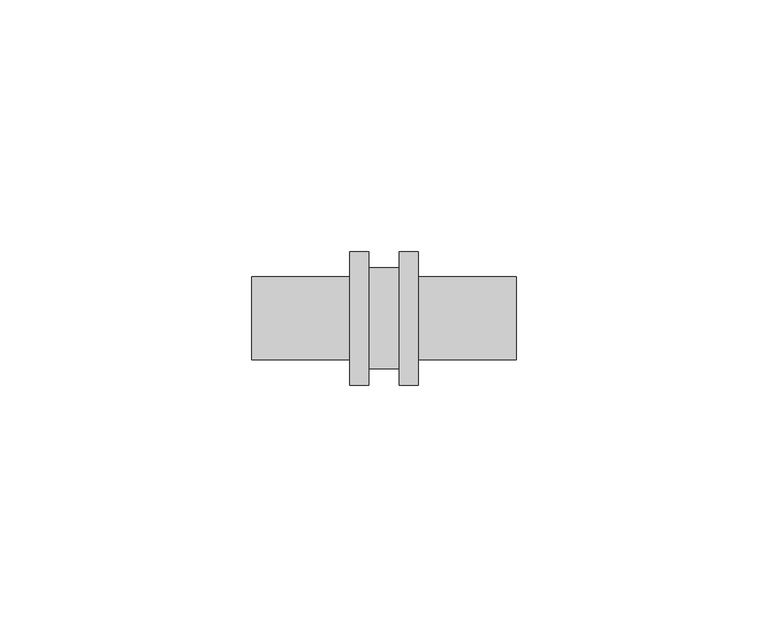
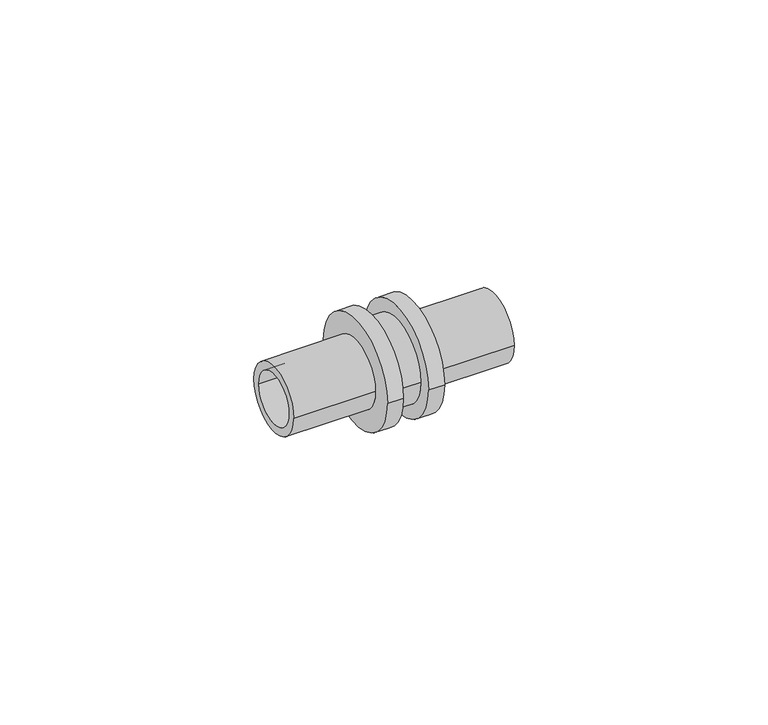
"""IFC4 building model written with IfcOpenShell, lengths in millimetres: pipe fitting geometry, RAUTITAN_Union_LX : RTI LX U DE."""

from ifc_helpers import new_model, si_unit, frame, origin, place, context, project, spatial, polyline, circle_curve, source, transform, mapped, element, save
from ifc_brep_helpers import plane_surface, cylinder_surface, revolved_surface, advanced_brep


def pipe_fitting_2d968c61(model_context):
    return source(origin(), model_context, "Body", "AdvancedBrep", [
        advanced_brep(
        [(-26.3, 6.25, 0.0), (-26.3, -6.25, 0.0), (26.3, -6.25, 0.0), (26.3, 6.25, 0.0), (-6.8, 8.25, 0.0), (-6.8, -8.25, 0.0), (-26.3, -8.25, 0.0), (-26.3, 8.25, 0.0), (-3.0, 13.25, 0.0), (-3.0, -13.25, 0.0), (-6.8, -13.25, 0.0), (-6.8, 13.25, 0.0), (3.0, 10.05, 0.0), (3.0, -10.05, 0.0), (-3.0, -10.05, 0.0), (-3.0, 10.05, 0.0), (6.8, 13.25, 0.0), (6.8, -13.25, 0.0), (3.0, -13.25, 0.0), (3.0, 13.25, 0.0), (26.3, 8.25, 0.0), (26.3, -8.25, 0.0), (6.8, -8.25, 0.0), (6.8, 8.25, 0.0)],
        [
            (0, 1, circle_curve(frame((-26.3, 0.0, 0.0), z_axis=(-1.0, 0.0, 0.0), x_axis=(0.0, -1.0, 0.0)), 6.25)),
            (1, 2),
            (2, 3, circle_curve(frame((26.3, 0.0, 0.0), z_axis=(1.0, 0.0, 0.0), x_axis=(0.0, -1.0, 0.0)), 6.25)),
            (3, 0),
            (4, 5, circle_curve(frame((-6.8, 0.0, 0.0), z_axis=(-1.0, 0.0, 0.0), x_axis=(0.0, -1.0, 0.0)), 8.25)),
            (5, 6),
            (6, 7, circle_curve(frame((-26.3, 0.0, 0.0), z_axis=(1.0, 0.0, 0.0), x_axis=(0.0, -1.0, 0.0)), 8.25)),
            (7, 4),
            (8, 9, circle_curve(frame((-3.0, 0.0, 0.0), z_axis=(-1.0, 0.0, 0.0), x_axis=(0.0, -1.0, 0.0)), 13.25)),
            (9, 10),
            (10, 11, circle_curve(frame((-6.8, 0.0, 0.0), z_axis=(1.0, 0.0, 0.0), x_axis=(0.0, -1.0, 0.0)), 13.25)),
            (11, 8),
            (12, 13, circle_curve(frame((3.0, 0.0, 0.0), z_axis=(-1.0, 0.0, 0.0), x_axis=(0.0, -1.0, 0.0)), 10.05)),
            (13, 14),
            (14, 15, circle_curve(frame((-3.0, 0.0, 0.0), z_axis=(1.0, 0.0, 0.0), x_axis=(0.0, -1.0, 0.0)), 10.05)),
            (15, 12),
            (16, 17, circle_curve(frame((6.8, 0.0, 0.0), z_axis=(-1.0, 0.0, 0.0), x_axis=(0.0, -1.0, 0.0)), 13.25)),
            (17, 18),
            (18, 19, circle_curve(frame((3.0, 0.0, 0.0), z_axis=(1.0, 0.0, 0.0), x_axis=(0.0, -1.0, 0.0)), 13.25)),
            (19, 16),
            (20, 21, circle_curve(frame((26.3, 0.0, 0.0), z_axis=(-1.0, 0.0, 0.0), x_axis=(0.0, -1.0, 0.0)), 8.25)),
            (21, 22),
            (22, 23, circle_curve(frame((6.8, 0.0, 0.0), z_axis=(1.0, 0.0, 0.0), x_axis=(0.0, -1.0, 0.0)), 8.25)),
            (23, 20),
            (1, 0, circle_curve(frame((-26.3, 0.0, 0.0), z_axis=(-1.0, 0.0, 0.0), x_axis=(0.0, 1.0, 0.0)), 6.25)),
            (3, 2, circle_curve(frame((26.3, 0.0, 0.0), z_axis=(1.0, 0.0, 0.0), x_axis=(0.0, 1.0, 0.0)), 6.25)),
            (6, 7, circle_curve(frame((-26.3, 0.0, 0.0), z_axis=(-1.0, 0.0, 0.0), x_axis=(0.0, 1.0, 0.0)), 8.25)),
            (5, 4, circle_curve(frame((-6.8, 0.0, 0.0), z_axis=(-1.0, 0.0, 0.0), x_axis=(0.0, 1.0, 0.0)), 8.25)),
            (10, 11, circle_curve(frame((-6.8, 0.0, 0.0), z_axis=(-1.0, 0.0, 0.0), x_axis=(0.0, 1.0, 0.0)), 13.25)),
            (9, 8, circle_curve(frame((-3.0, 0.0, 0.0), z_axis=(-1.0, 0.0, 0.0), x_axis=(0.0, 1.0, 0.0)), 13.25)),
            (14, 15, circle_curve(frame((-3.0, 0.0, 0.0), z_axis=(-1.0, 0.0, 0.0), x_axis=(0.0, 1.0, 0.0)), 10.05)),
            (13, 12, circle_curve(frame((3.0, 0.0, 0.0), z_axis=(-1.0, 0.0, 0.0), x_axis=(0.0, 1.0, 0.0)), 10.05)),
            (18, 19, circle_curve(frame((3.0, 0.0, 0.0), z_axis=(-1.0, 0.0, 0.0), x_axis=(0.0, 1.0, 0.0)), 13.25)),
            (17, 16, circle_curve(frame((6.8, 0.0, 0.0), z_axis=(-1.0, 0.0, 0.0), x_axis=(0.0, 1.0, 0.0)), 13.25)),
            (22, 23, circle_curve(frame((6.8, 0.0, 0.0), z_axis=(-1.0, 0.0, 0.0), x_axis=(0.0, 1.0, 0.0)), 8.25)),
            (21, 20, circle_curve(frame((26.3, 0.0, 0.0), z_axis=(-1.0, 0.0, 0.0), x_axis=(0.0, 1.0, 0.0)), 8.25)),
        ],
        [
            revolved_surface(polyline([(26.3, -6.25, 0.0), (-26.3, -6.25, 0.0)]), (0.0, 0.0, 0.0), (1.0, 0.0, 0.0)),
            cylinder_surface(frame((0.0, 0.0, 0.0), z_axis=(1.0, 0.0, 0.0), x_axis=(0.0, -1.0, 0.0)), 8.25),
            cylinder_surface(frame((0.0, 0.0, 0.0), z_axis=(1.0, 0.0, 0.0), x_axis=(0.0, -1.0, 0.0)), 13.25),
            cylinder_surface(frame((0.0, 0.0, 0.0), z_axis=(1.0, 0.0, 0.0), x_axis=(0.0, -1.0, 0.0)), 10.05),
            revolved_surface(polyline([(26.3, 6.25, 0.0), (-26.3, 6.25, 0.0)]), (0.0, 0.0, 0.0), (1.0, 0.0, 0.0)),
            plane_surface(frame((-26.3, 0.0, 0.0), z_axis=(-1.0, 0.0, 0.0), x_axis=(0.0, 1.0, 0.0))),
            cylinder_surface(frame((0.0, 0.0, 0.0), z_axis=(1.0, 0.0, 0.0), x_axis=(0.0, 1.0, 0.0)), 8.25),
            plane_surface(frame((-6.8, 0.0, 0.0), z_axis=(-1.0, 0.0, 0.0), x_axis=(0.0, 1.0, 0.0))),
            cylinder_surface(frame((0.0, 0.0, 0.0), z_axis=(1.0, 0.0, 0.0), x_axis=(0.0, 1.0, 0.0)), 13.25),
            plane_surface(frame((-3.0, 0.0, 0.0), z_axis=(1.0, 0.0, 0.0), x_axis=(0.0, 1.0, 0.0))),
            cylinder_surface(frame((0.0, 0.0, 0.0), z_axis=(1.0, 0.0, 0.0), x_axis=(0.0, 1.0, 0.0)), 10.05),
            plane_surface(frame((3.0, 0.0, 0.0), z_axis=(-1.0, 0.0, 0.0), x_axis=(0.0, 1.0, 0.0))),
            plane_surface(frame((6.8, 0.0, 0.0), z_axis=(1.0, 0.0, 0.0), x_axis=(0.0, 1.0, 0.0))),
            plane_surface(frame((26.3, 0.0, 0.0), z_axis=(1.0, 0.0, 0.0), x_axis=(0.0, 1.0, 0.0))),
        ],
        [
            (0, [[1, 2, 3, 4]]),
            (1, [[5, 6, 7, 8]]),
            (2, [[9, 10, 11, 12]]),
            (3, [[13, 14, 15, 16]]),
            (2, [[17, 18, 19, 20]]),
            (1, [[21, 22, 23, 24]]),
            (4, [[25, -4, 26, -2]]),
            (5, [[27, -7], [-25, -1]]),
            (6, [[28, -8, -27, -6]]),
            (7, [[29, -11], [-28, -5]]),
            (8, [[30, -12, -29, -10]]),
            (9, [[-30, -9], [31, -15]]),
            (10, [[32, -16, -31, -14]]),
            (11, [[33, -19], [-32, -13]]),
            (8, [[34, -20, -33, -18]]),
            (12, [[-34, -17], [35, -23]]),
            (6, [[36, -24, -35, -22]]),
            (13, [[-36, -21], [-26, -3]]),
        ],
    ),
    ])


if __name__ == "__main__":
    model = new_model("IFC4")
    model_context = context("Model", 3, world=origin())
    ifc_project = project(units=[si_unit("LENGTHUNIT", "METRE", prefix="MILLI")], contexts=[model_context])
    site = spatial("IfcSite", under=ifc_project)
    building = spatial("IfcBuilding", under=site)
    placement = place(None, origin())
    pipe_fitting_shape = pipe_fitting_2d968c61(model_context)
    element("IfcPipeFitting", 1, ObjectType="RAUTITAN_Union_LX : RTI LX U DE", at=placement, inside=building, context=model_context, shape_type="MappedRepresentation", body=[
        mapped(pipe_fitting_shape, transform((0.0, 0.0, 0.0), x_axis=(1.0, 0.0, 0.0), y_axis=(0.0, 1.0, 0.0), z_axis=(0.0, 0.0, 1.0))),
    ])
    save(model, "model.ifc")
